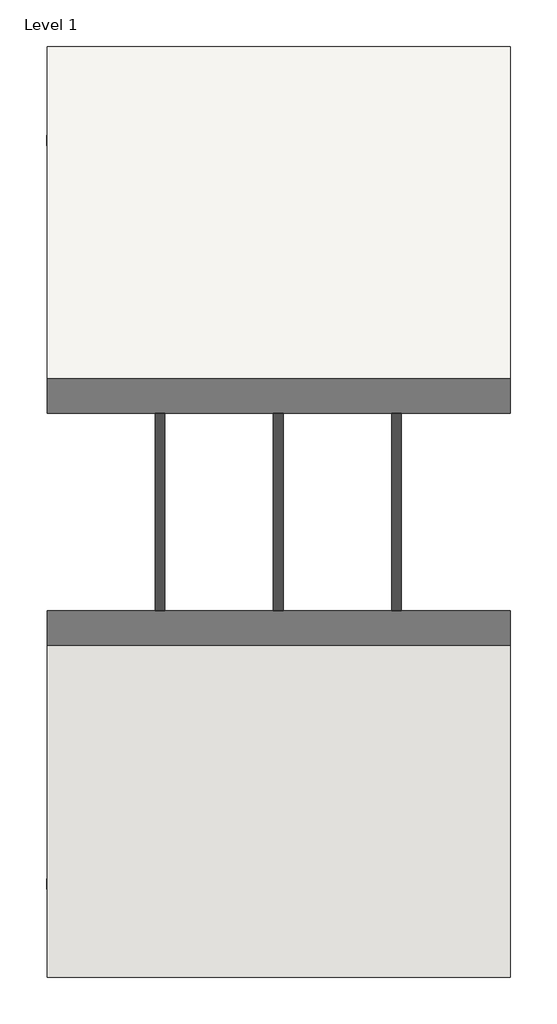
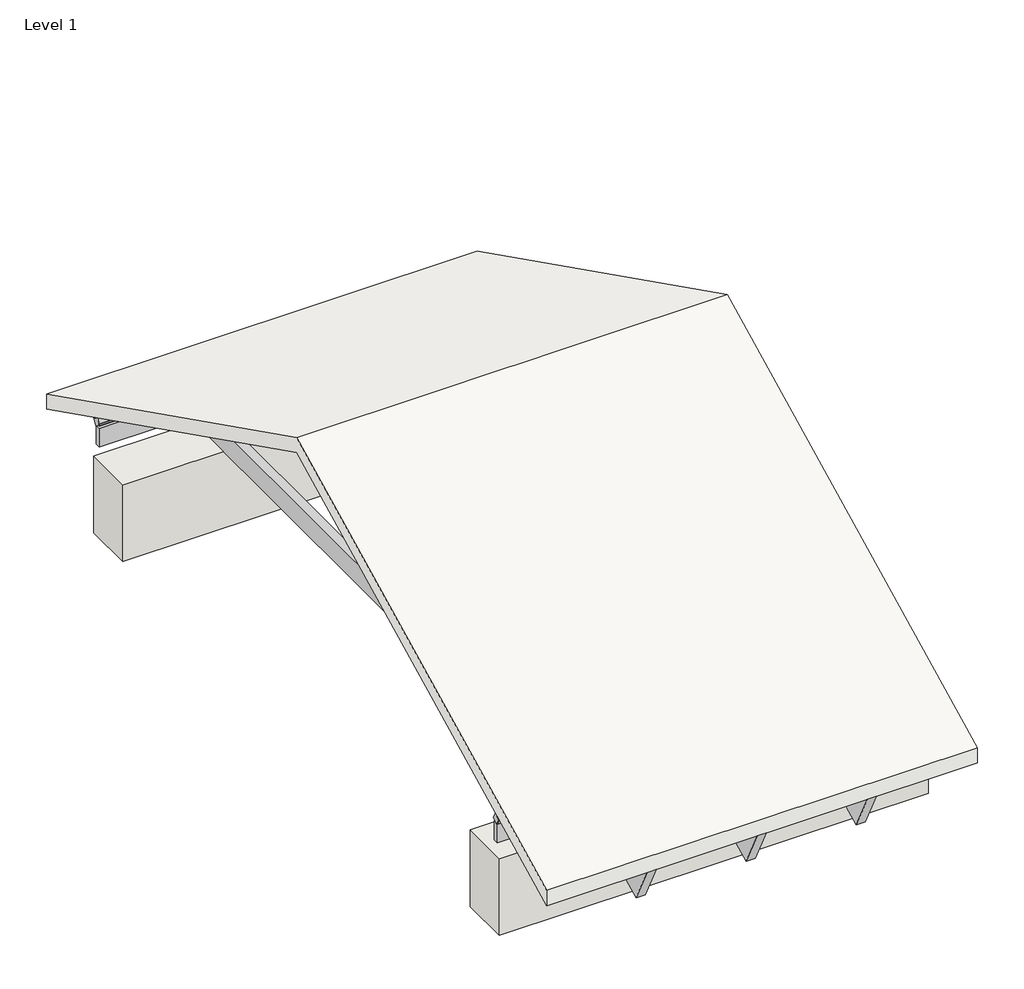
# One storey: 8 proxies, 2 walls, 1 beam, 1 roof.
"""IFC4 building model written with IfcOpenShell, lengths in millimetres."""

from ifc_helpers import new_model, si_unit, frame, origin, place, context, project, spatial, polyline, outline, extrude, transform, mapped, element, save
from components import truss_truss_4d268ba2, roof_vent_metal_era_eco_perf_truss_vent_eco_perf_truss_vent_0e86e564

model = new_model("IFC4")

# Units and contexts
model_context = context("Model", 3, world=origin())
ifc_project = project(units=[si_unit("LENGTHUNIT", "METRE", prefix="MILLI")], contexts=[model_context])

# Site, building, storey
site = spatial("IfcSite", under=ifc_project)
building = spatial("IfcBuilding", under=site)
storey = spatial("IfcBuildingStorey", under=building, Name="Level 1", Elevation=0.0)

# Beam
placement = place(None, origin())
truss_truss_shape = truss_truss_4d268ba2(model_context)
element("IfcBeam", 1, ObjectType="Truss : Truss", at=placement, inside=storey, context=model_context, shape_type="MappedRepresentation", body=[
    mapped(truss_truss_shape, transform((0.0, 0.0, 0.0), x_axis=(1.0, 0.0, 0.0), y_axis=(0.0, 1.0, 0.0), z_axis=(0.0, 0.0, 1.0))),
])

# Proxies
roof_vent_metal_era_eco_perf_truss_vent_eco_perf_truss_vent_shape = roof_vent_metal_era_eco_perf_truss_vent_eco_perf_truss_vent_0e86e564(model_context)
element("IfcBuildingElementProxy", 2, Name="Roof_Vent-Metal_Era-Eco_Perf_Truss_Vent : Eco-Perf Truss Vent", ObjectType="Roof_Vent-Metal_Era-Eco_Perf_Truss_Vent : Eco-Perf Truss Vent", at=placement, inside=storey, context=model_context, shape_type="MappedRepresentation", body=[
    mapped(roof_vent_metal_era_eco_perf_truss_vent_eco_perf_truss_vent_shape, transform((-1103.4779745, -288.0155197, 302.254198), x_axis=(-1.0, 0.0, 0.0), y_axis=(0.0, 0.894427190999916, 0.447213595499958), z_axis=(0.0, 0.447213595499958, -0.894427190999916))),
])
element("IfcBuildingElementProxy", 3, Name="Roof_Vent-Metal_Era-Eco_Perf_Truss_Vent : Eco-Perf Truss Vent", ObjectType="Roof_Vent-Metal_Era-Eco_Perf_Truss_Vent : Eco-Perf Truss Vent", at=placement, inside=storey, context=model_context, shape_type="MappedRepresentation", body=[
    mapped(roof_vent_metal_era_eco_perf_truss_vent_eco_perf_truss_vent_shape, transform((-1878.1779745, -292.6516166, 299.9361496), x_axis=(-1.0, 0.0, 0.0), y_axis=(0.0, 0.894427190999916, 0.447213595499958), z_axis=(0.0, 0.447213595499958, -0.894427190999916))),
])
element("IfcBuildingElementProxy", 4, Name="Roof_Vent-Metal_Era-Eco_Perf_Truss_Vent : Eco-Perf Truss Vent", ObjectType="Roof_Vent-Metal_Era-Eco_Perf_Truss_Vent : Eco-Perf Truss Vent", at=placement, inside=storey, context=model_context, shape_type="MappedRepresentation", body=[
    mapped(roof_vent_metal_era_eco_perf_truss_vent_eco_perf_truss_vent_shape, transform((-1103.4779745, 4598.9676883, 302.254198), x_axis=(1.0, 0.0, 0.0), y_axis=(0.0, -0.8944271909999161, 0.4472135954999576), z_axis=(0.0, -0.4472135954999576, -0.8944271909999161))),
])
element("IfcBuildingElementProxy", 5, Name="Roof_Vent-Metal_Era-Eco_Perf_Truss_Vent : Eco-Perf Truss Vent", ObjectType="Roof_Vent-Metal_Era-Eco_Perf_Truss_Vent : Eco-Perf Truss Vent", at=placement, inside=storey, context=model_context, shape_type="MappedRepresentation", body=[
    mapped(roof_vent_metal_era_eco_perf_truss_vent_eco_perf_truss_vent_shape, transform((-1878.1779745, 4598.9676883, 302.254198), x_axis=(1.0, 0.0, 0.0), y_axis=(0.0, -0.8944271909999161, 0.4472135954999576), z_axis=(0.0, -0.4472135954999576, -0.8944271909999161))),
])
element("IfcBuildingElementProxy", 6, Name="Roof_Vent-Metal_Era-Eco_Perf_Truss_Vent : Eco-Perf Truss Vent", ObjectType="Roof_Vent-Metal_Era-Eco_Perf_Truss_Vent : Eco-Perf Truss Vent", at=placement, inside=storey, context=model_context, shape_type="MappedRepresentation", body=[
    mapped(roof_vent_metal_era_eco_perf_truss_vent_eco_perf_truss_vent_shape, transform((-2652.8667921, -292.6516166, 299.9361496), x_axis=(-1.0, 0.0, 0.0), y_axis=(0.0, 0.894427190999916, 0.447213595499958), z_axis=(0.0, 0.447213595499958, -0.894427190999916))),
])
element("IfcBuildingElementProxy", 7, Name="Roof_Vent-Metal_Era-Eco_Perf_Truss_Vent : Eco-Perf Truss Vent", ObjectType="Roof_Vent-Metal_Era-Eco_Perf_Truss_Vent : Eco-Perf Truss Vent", at=placement, inside=storey, context=model_context, shape_type="MappedRepresentation", body=[
    mapped(roof_vent_metal_era_eco_perf_truss_vent_eco_perf_truss_vent_shape, transform((-2652.8667921, 4598.9676883, 302.254198), x_axis=(1.0, 0.0, 0.0), y_axis=(0.0, -0.8944271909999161, 0.4472135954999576), z_axis=(0.0, -0.4472135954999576, -0.8944271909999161))),
])
element("IfcBuildingElementProxy", 8, Name="Roof_Vent-Metal_Era-Eco_Perf_Truss_Vent : Eco-Perf Truss Vent", ObjectType="Roof_Vent-Metal_Era-Eco_Perf_Truss_Vent : Eco-Perf Truss Vent", at=placement, inside=storey, context=model_context, shape_type="MappedRepresentation", body=[
    mapped(roof_vent_metal_era_eco_perf_truss_vent_eco_perf_truss_vent_shape, transform((-328.7779745, -288.0155197, 302.254198), x_axis=(-1.0, 0.0, 0.0), y_axis=(0.0, 0.894427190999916, 0.447213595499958), z_axis=(0.0, 0.447213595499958, -0.894427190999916))),
])
element("IfcBuildingElementProxy", 9, Name="Roof_Vent-Metal_Era-Eco_Perf_Truss_Vent : Eco-Perf Truss Vent", ObjectType="Roof_Vent-Metal_Era-Eco_Perf_Truss_Vent : Eco-Perf Truss Vent", at=placement, inside=storey, context=model_context, shape_type="MappedRepresentation", body=[
    mapped(roof_vent_metal_era_eco_perf_truss_vent_eco_perf_truss_vent_shape, transform((-328.7779745, 4598.9676883, 302.254198), x_axis=(1.0, 0.0, 0.0), y_axis=(0.0, -0.8944271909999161, 0.4472135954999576), z_axis=(0.0, -0.4472135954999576, -0.8944271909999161))),
])

# Roof
element("IfcRoof", 10, ObjectType="Generic - 4\"", at=placement, inside=storey, context=model_context, shape_type="SweptSolid", body=[
    extrude(outline(polyline([(-892.5239157, 113.5922533), (2155.4760843, 1637.5922533), (5203.4760843, 113.5922533), (5203.4760843, 0.0), (2155.4760843, 1524.0), (-892.5239157, 0.0), (-892.5239157, 113.5922533)])), frame((-3005.2917921, 0.0, 0.0), z_axis=(1.0, 0.0, 0.0), x_axis=(0.0, 1.0, 0.0)), (0.0, 0.0, 1.0), 3032.1138176),
])

# Walls
element("IfcWall", 11, ObjectType="Exterior - Brick on Mtl. Stud", at=placement, inside=storey, context=model_context, shape_type="SweptSolid", body=[
    extrude(outline(polyline([(14.5000472, -315.3700672), (-3005.2917921, -315.3700672), (-3005.2917921, 37.0549328), (14.5000472, 37.0549328), (14.5000472, -315.3700672)])), frame((0.0, 0.0, -571.8014688), z_axis=(0.0, 0.0, 1.0), x_axis=(1.0, 0.0, 0.0)), (0.0, 0.0, 1.0), 571.8014688),
])
element("IfcWall", 12, ObjectType="Exterior - Brick on Mtl. Stud", at=placement, inside=storey, context=model_context, shape_type="SweptSolid", body=[
    extrude(outline(polyline([(14.5000472, 4273.8972358), (-3005.2917921, 4273.8972358), (-3005.2917921, 4626.3222358), (14.5000472, 4626.3222358), (14.5000472, 4273.8972358)])), frame((0.0, 0.0, -571.8014688), z_axis=(0.0, 0.0, 1.0), x_axis=(1.0, 0.0, 0.0)), (0.0, 0.0, 1.0), 571.8014688),
])

save(model, "model.ifc")
